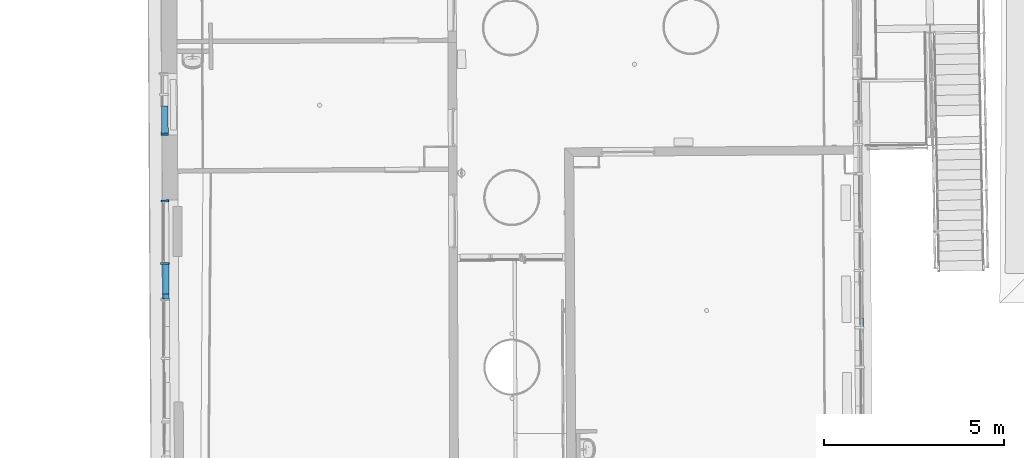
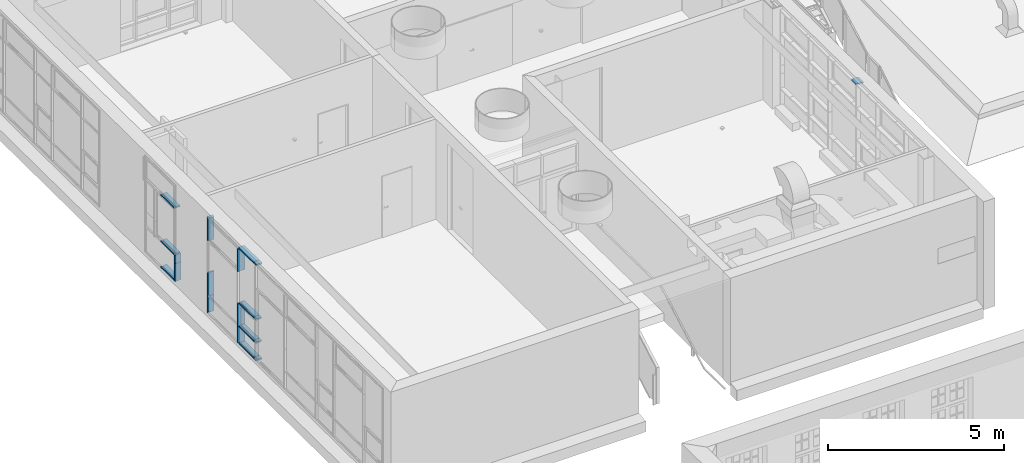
# One storey, part 121 of 158: 20 building element parts, 3 elements without a shape of their own.
"""IFC2X3 building model written with IfcOpenShell, lengths in metres."""

from ifc_helpers import new_model, entity, si_unit, converted_unit, derived_unit, money_unit, direction, frame, origin_with_axes, place, context, subcontext, project, spatial, faceted_brep, material, type_object, element, aggregate, save


model = new_model("IFC2X3")

# Units and contexts
model_context = context("Model", 3, precision=1e-05, world=origin_with_axes(), true_north=direction((0.0, 1.0)))
body_context = subcontext(model_context, "Body", "Model", "MODEL_VIEW")
ifc_project = project(units=[si_unit("LENGTHUNIT", "METRE"), si_unit("AREAUNIT", "SQUARE_METRE"), si_unit("VOLUMEUNIT", "CUBIC_METRE"), converted_unit("PLANEANGLEUNIT", "DEGREE", entity("IfcPlaneAngleMeasure", 0.0174532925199), si_unit("PLANEANGLEUNIT", "RADIAN"), dimensions=[0, 0, 0, 0, 0, 0, 0]), money_unit("EUR"), converted_unit("TIMEUNIT", "Year", entity("IfcTimeMeasure", 31556926.0), si_unit("TIMEUNIT", "SECOND"), dimensions=[0, 0, 1, 0, 0, 0, 0]), si_unit("MASSUNIT", "GRAM", prefix="KILO"), si_unit("THERMODYNAMICTEMPERATUREUNIT", "DEGREE_CELSIUS"), si_unit("LUMINOUSINTENSITYUNIT", "LUMEN"), si_unit("ENERGYUNIT", "JOULE", prefix="MEGA"), derived_unit("THERMALCONDUCTANCEUNIT", [(si_unit("POWERUNIT", "WATT"), 1), (si_unit("LENGTHUNIT", "METRE"), -1), (si_unit("THERMODYNAMICTEMPERATUREUNIT", "KELVIN"), -1)]), derived_unit("SPECIFICHEATCAPACITYUNIT", [(si_unit("ENERGYUNIT", "JOULE"), 1), (si_unit("MASSUNIT", "GRAM", prefix="KILO"), -1), (si_unit("THERMODYNAMICTEMPERATUREUNIT", "KELVIN"), -1)]), derived_unit("MASSDENSITYUNIT", [(si_unit("MASSUNIT", "GRAM", prefix="KILO"), 1), (si_unit("VOLUMEUNIT", "CUBIC_METRE"), -1)])], contexts=[model_context])

# Site, building, storey
site_placement = place(None, origin_with_axes())
site = spatial("IfcSite", under=ifc_project, at=site_placement, Name="Gelände", CompositionType="ELEMENT")
building_placement = place(site_placement, origin_with_axes())
building = spatial("IfcBuilding", under=site, at=building_placement, Name="Gebäude", CompositionType="ELEMENT")
storey_placement = place(building_placement, origin_with_axes())
storey = spatial("IfcBuildingStorey", under=building, at=storey_placement, Name="ERDGESCHOSS", CompositionType="ELEMENT", Elevation=0.0)

# Proxy, building element parts
building_element_proxy_type = type_object("IfcBuildingElementProxyType", Name="Fassadentyp", PredefinedType="NOTDEFINED")
proxy_1_placement = place(storey_placement, frame((-34.8671799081, 43.8049527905, 1.34043902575), z_axis=(0.0, 0.0, 1.0), x_axis=(1.0, 0.0, 0.0)))
proxy_1 = element("IfcBuildingElementProxy", 1, at=proxy_1_placement, inside=storey, type_object=building_element_proxy_type, Name="Fassade-002")
ifc_material = material(Name="53_Metall, Aluminium")
building_element_part_1_placement = place(proxy_1_placement, origin_with_axes())
building_element_part_1 = element("IfcBuildingElementPart", 2, at=building_element_part_1_placement, material=ifc_material, Name="53_Metall, Aluminium", context=body_context, shape_type="Brep", body=[
    faceted_brep([(0.0149540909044, -0.844683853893, 0.620000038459), (-0.00504556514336, -0.844801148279, 0.620000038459), (-0.00513353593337, -0.829801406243, 0.620000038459), (-0.0451328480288, -0.830035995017, 0.620000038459), (-0.0448396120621, -0.880035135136, 0.620000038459), (0.155156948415, -0.878862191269, 0.620000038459), (0.154863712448, -0.82886305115, 0.620000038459), (0.0148661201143, -0.829684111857, 0.620000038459), (0.0149540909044, -0.844683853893, 0.035), (-0.00504556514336, -0.844801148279, 0.035), (-0.00513353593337, -0.829801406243, 0.05), (-0.0451328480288, -0.830035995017, 0.05), (-0.0448396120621, -0.880035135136, 0.0), (0.155156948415, -0.878862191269, 0.0), (0.154863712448, -0.82886305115, 0.05), (0.0148661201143, -0.829684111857, 0.05)], [[[0, 1, 2, 3, 4, 5, 6, 7]], [[1, 0, 8, 9]], [[10, 2, 1, 9]], [[2, 10, 11, 3]], [[4, 3, 11, 12]], [[5, 4, 12, 13]], [[6, 5, 13, 14]], [[15, 7, 6, 14]], [[0, 7, 15, 8]], [[8, 15, 14, 13, 12, 11, 10, 9]]]),
])
building_element_part_2_placement = place(proxy_1_placement, origin_with_axes())
building_element_part_2 = element("IfcBuildingElementPart", 3, at=building_element_part_2_placement, material=ifc_material, Name="53_Metall, Aluminium", context=body_context, shape_type="Brep", body=[
    faceted_brep([(0.0149540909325, -0.844683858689, 0.915545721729), (-0.00504556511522, -0.844801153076, 0.915545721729), (-0.00513353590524, -0.82980141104, 0.915545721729), (-0.0451328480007, -0.830035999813, 0.915545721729), (-0.0448396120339, -0.880035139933, 0.915545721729), (0.155156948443, -0.878862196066, 0.915545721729), (0.154863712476, -0.828863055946, 0.915545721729), (0.0148661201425, -0.829684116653, 0.915545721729), (0.0149540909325, -0.844683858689, 0.620000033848), (-0.00504556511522, -0.844801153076, 0.620000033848), (-0.00513353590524, -0.82980141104, 0.620000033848), (-0.0451328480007, -0.830035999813, 0.620000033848), (-0.0448396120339, -0.880035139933, 0.620000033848), (0.155156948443, -0.878862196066, 0.620000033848), (0.154863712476, -0.828863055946, 0.620000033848), (0.0148661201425, -0.829684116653, 0.620000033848)], [[[0, 1, 2, 3, 4, 5, 6, 7]], [[1, 0, 8, 9]], [[10, 2, 1, 9]], [[2, 10, 11, 3]], [[12, 4, 3, 11]], [[13, 5, 4, 12]], [[14, 6, 5, 13]], [[15, 7, 6, 14]], [[0, 7, 15, 8]], [[8, 15, 14, 13, 12, 11, 10, 9]]]),
])
building_element_part_3_placement = place(proxy_1_placement, origin_with_axes())
building_element_part_3 = element("IfcBuildingElementPart", 4, at=building_element_part_3_placement, material=ifc_material, Name="53_Metall, Aluminium", context=body_context, shape_type="Brep", body=[
    faceted_brep([(0.0148661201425, -0.829684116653, 2.51000003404), (0.0148661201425, -0.829684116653, 2.49500003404), (0.154863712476, -0.828863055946, 2.49500003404), (0.154863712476, -0.828863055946, 2.54500003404), (0.0148661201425, -0.829684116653, 2.54500003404), (0.0148661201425, -0.829684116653, 2.53000003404), (-0.00513353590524, -0.82980141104, 2.53000003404), (-0.00513353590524, -0.82980141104, 2.54500003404), (-0.0451328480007, -0.830035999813, 2.54500003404), (-0.0451328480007, -0.830035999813, 2.49500003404), (-0.00513353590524, -0.82980141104, 2.49500003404), (-0.00513353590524, -0.82980141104, 2.51000003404), (0.0104198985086, -0.0715668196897, 2.51000003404), (0.0104198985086, -0.0715668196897, 2.49500003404), (0.150417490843, -0.0707457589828, 2.49500003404), (0.150417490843, -0.0707457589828, 2.54500003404), (0.0104198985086, -0.0715668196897, 2.54500003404), (0.0104198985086, -0.0715668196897, 2.53000003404), (-0.00957975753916, -0.0716841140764, 2.53000003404), (-0.00957975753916, -0.0716841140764, 2.54500003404), (-0.0495790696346, -0.0719187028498, 2.54500003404), (-0.0495790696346, -0.0719187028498, 2.49500003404), (-0.00957975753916, -0.0716841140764, 2.49500003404), (-0.00957975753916, -0.0716841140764, 2.51000003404)], [[[0, 1, 2, 3, 4, 5, 6, 7, 8, 9, 10, 11]], [[1, 0, 12, 13]], [[1, 13, 14, 2]], [[3, 2, 14, 15]], [[4, 3, 15, 16]], [[4, 16, 17, 5]], [[5, 17, 18, 6]], [[7, 6, 18, 19]], [[19, 20, 8, 7]], [[9, 8, 20, 21]], [[22, 10, 9, 21]], [[11, 10, 22, 23]], [[0, 11, 23, 12]], [[23, 22, 21, 20, 19, 18, 17, 16, 15, 14, 13, 12]]]),
])
building_element_part_4_placement = place(proxy_1_placement, origin_with_axes())
building_element_part_4 = element("IfcBuildingElementPart", 5, at=building_element_part_4_placement, material=ifc_material, Name="53_Metall, Aluminium", context=body_context, shape_type="Brep", body=[
    faceted_brep([(0.014954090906, -0.844683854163, 0.035), (-0.00504556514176, -0.84480114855, 0.035), (-0.0051335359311, -0.82980140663, 0.05), (-0.0451328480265, -0.830035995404, 0.05), (-0.0448396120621, -0.880035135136, 0.0), (0.155156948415, -0.878862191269, 0.0), (0.154863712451, -0.828863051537, 0.05), (0.0148661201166, -0.829684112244, 0.05), (0.0104198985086, -0.0715668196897, 0.035), (-0.00957975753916, -0.0716841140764, 0.035), (-0.00957975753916, -0.0716841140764, 0.05), (-0.0495790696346, -0.0719187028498, 0.05), (-0.0495790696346, -0.0719187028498, 0.0), (0.150417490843, -0.0707457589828, 0.0), (0.150417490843, -0.0707457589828, 0.05), (0.0104198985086, -0.0715668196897, 0.05)], [[[0, 1, 2, 3, 4, 5, 6, 7]], [[1, 0, 8, 9]], [[10, 2, 1, 9]], [[2, 10, 11, 3]], [[12, 4, 3, 11]], [[13, 5, 4, 12]], [[14, 6, 5, 13]], [[15, 7, 6, 14]], [[0, 7, 15, 8]], [[8, 15, 14, 13, 12, 11, 10, 9]]]),
])
building_element_part_5_placement = place(proxy_1_placement, origin_with_axes())
building_element_part_5 = element("IfcBuildingElementPart", 6, at=building_element_part_5_placement, material=ifc_material, Name="53_Metall, Aluminium", context=body_context, shape_type="Brep", body=[
    faceted_brep([(0.0148661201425, -0.829684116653, 0.905545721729), (0.0148661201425, -0.829684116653, 0.890545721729), (0.154863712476, -0.828863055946, 0.890545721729), (0.154863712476, -0.828863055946, 0.940545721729), (0.0148661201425, -0.829684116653, 0.940545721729), (0.0148661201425, -0.829684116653, 0.925545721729), (-0.00513353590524, -0.82980141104, 0.925545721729), (-0.00513353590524, -0.82980141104, 0.940545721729), (-0.0451328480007, -0.830035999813, 0.940545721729), (-0.0451328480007, -0.830035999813, 0.890545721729), (-0.00513353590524, -0.82980141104, 0.890545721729), (-0.00513353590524, -0.82980141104, 0.905545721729), (0.0104198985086, -0.0715668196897, 0.905545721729), (0.0104198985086, -0.0715668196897, 0.890545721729), (0.150417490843, -0.0707457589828, 0.890545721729), (0.150417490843, -0.0707457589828, 0.940545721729), (0.0104198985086, -0.0715668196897, 0.940545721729), (0.0104198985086, -0.0715668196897, 0.925545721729), (-0.00957975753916, -0.0716841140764, 0.925545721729), (-0.00957975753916, -0.0716841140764, 0.940545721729), (-0.0495790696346, -0.0719187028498, 0.940545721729), (-0.0495790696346, -0.0719187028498, 0.890545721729), (-0.00957975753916, -0.0716841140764, 0.890545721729), (-0.00957975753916, -0.0716841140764, 0.905545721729)], [[[0, 1, 2, 3, 4, 5, 6, 7, 8, 9, 10, 11]], [[1, 0, 12, 13]], [[1, 13, 14, 2]], [[3, 2, 14, 15]], [[4, 3, 15, 16]], [[4, 16, 17, 5]], [[5, 17, 18, 6]], [[7, 6, 18, 19]], [[19, 20, 8, 7]], [[9, 8, 20, 21]], [[22, 10, 9, 21]], [[11, 10, 22, 23]], [[0, 11, 23, 12]], [[23, 22, 21, 20, 19, 18, 17, 16, 15, 14, 13, 12]]]),
])
aggregate(proxy_1, [building_element_part_1, building_element_part_2, building_element_part_3, building_element_part_4, building_element_part_5])

# Proxy, building element part
proxy_2_placement = place(storey_placement, frame((-15.5457352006, 40.9565245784, 1.34043905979), z_axis=(0.0, 0.0, 1.0), x_axis=(1.0, 0.0, 0.0)))
proxy_2 = element("IfcBuildingElementProxy", 7, at=proxy_2_placement, inside=storey, type_object=building_element_proxy_type, Name="Fassade-002")
building_element_part_6_placement = place(proxy_2_placement, origin_with_axes())
building_element_part_6 = element("IfcBuildingElementPart", 8, at=building_element_part_6_placement, material=ifc_material, Name="53_Metall, Aluminium", context=body_context, shape_type="Brep", body=[
    faceted_brep([(0.0162378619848, -3.37205335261, 3.31499987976), (0.0362372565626, -3.37189773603, 3.31499987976), (0.0362372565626, -3.37189773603, 3.29999987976), (0.116234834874, -3.37127526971, 3.29999987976), (0.116234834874, -3.37127526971, 3.34999987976), (-0.12375790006, -3.37314266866, 3.34999987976), (-0.12375790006, -3.37314266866, 3.29999987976), (0.0162378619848, -3.37205335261, 3.29999987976), (0.0141207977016, -3.09997434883, 3.31499987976), (0.0341201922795, -3.09981873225, 3.31499987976), (0.0341201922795, -3.09981873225, 3.29999987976), (0.114117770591, -3.09919626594, 3.29999987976), (0.114117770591, -3.09919626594, 3.34999987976), (-0.125874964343, -3.10106366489, 3.34999987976), (-0.125874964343, -3.10106366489, 3.29999987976), (0.0141207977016, -3.09997434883, 3.29999987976)], [[[0, 1, 2, 3, 4, 5, 6, 7]], [[1, 0, 8, 9]], [[10, 2, 1, 9]], [[2, 10, 11, 3]], [[12, 4, 3, 11]], [[13, 5, 4, 12]], [[14, 6, 5, 13]], [[15, 7, 6, 14]], [[0, 7, 15, 8]], [[8, 15, 14, 13, 12, 11, 10, 9]]]),
])
aggregate(proxy_2, [building_element_part_6])

# Proxy, building element parts
proxy_3_placement = place(storey_placement, frame((-34.8120286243, 34.4012060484, 1.3404389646), z_axis=(0.0, 0.0, 1.0), x_axis=(1.0, 0.0, 0.0)))
proxy_3 = element("IfcBuildingElementProxy", 9, at=proxy_3_placement, inside=storey, type_object=building_element_proxy_type, Name="Fassade-002")
building_element_part_7_placement = place(proxy_3_placement, origin_with_axes())
building_element_part_7 = element("IfcBuildingElementPart", 10, at=building_element_part_7_placement, material=ifc_material, Name="53_Metall, Aluminium", context=body_context, shape_type="Brep", body=[
    faceted_brep([(-0.0132443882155, 3.96338837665, 0.0350000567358), (-0.0332440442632, 3.96327108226, 0.0350000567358), (-0.0332440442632, 3.96327108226, 0.0500000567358), (-0.0732433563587, 3.96303649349, 0.0500000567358), (-0.0732433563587, 3.96303649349, 5.6735754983e-08), (0.126753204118, 3.96420943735, 5.6735754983e-08), (0.126753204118, 3.96420943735, 0.0500000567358), (-0.0132443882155, 3.96338837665, 0.0500000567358), (-0.0141129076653, 4.11147807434, 0.0350000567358), (-0.034112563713, 4.11136077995, 0.0350000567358), (-0.034112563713, 4.11136077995, 0.0500000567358), (-0.0741118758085, 4.11112619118, 0.0500000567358), (-0.0741118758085, 4.11112619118, 5.6735754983e-08), (0.125884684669, 4.11229913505, 5.6735754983e-08), (0.125884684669, 4.11229913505, 0.0500000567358), (-0.0141129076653, 4.11147807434, 0.0500000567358)], [[[0, 1, 2, 3, 4, 5, 6, 7]], [[1, 0, 8, 9]], [[10, 2, 1, 9]], [[2, 10, 11, 3]], [[12, 4, 3, 11]], [[13, 5, 4, 12]], [[14, 6, 5, 13]], [[15, 7, 6, 14]], [[0, 7, 15, 8]], [[8, 15, 14, 13, 12, 11, 10, 9]]]),
])
building_element_part_8_placement = place(proxy_3_placement, origin_with_axes())
building_element_part_8 = element("IfcBuildingElementPart", 11, at=building_element_part_8_placement, material=ifc_material, Name="53_Metall, Aluminium", context=body_context, shape_type="Brep", body=[
    faceted_brep([(-0.0133910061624, 3.98838794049, 1.4100000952), (-0.0133910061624, 3.98838794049, 1.3950000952), (0.126606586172, 3.9892090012, 1.3950000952), (0.126606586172, 3.9892090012, 1.4450000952), (-0.0133910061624, 3.98838794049, 1.4450000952), (-0.0133910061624, 3.98838794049, 1.4300000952), (-0.0333906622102, 3.98827064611, 1.4300000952), (-0.0333906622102, 3.98827064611, 1.4450000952), (-0.0733899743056, 3.98803605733, 1.4450000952), (-0.0733899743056, 3.98803605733, 1.3950000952), (-0.0333906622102, 3.98827064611, 1.3950000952), (-0.0333906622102, 3.98827064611, 1.4100000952), (-0.0141129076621, 4.1114780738, 1.4100000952), (-0.0141129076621, 4.1114780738, 1.3950000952), (0.125884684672, 4.1122991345, 1.3950000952), (0.125884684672, 4.1122991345, 1.4450000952), (-0.0141129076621, 4.1114780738, 1.4450000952), (-0.0141129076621, 4.1114780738, 1.4300000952), (-0.0341125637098, 4.11136077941, 1.4300000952), (-0.0341125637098, 4.11136077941, 1.4450000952), (-0.0741118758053, 4.11112619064, 1.4450000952), (-0.0741118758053, 4.11112619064, 1.3950000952), (-0.0341125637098, 4.11136077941, 1.3950000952), (-0.0341125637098, 4.11136077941, 1.4100000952)], [[[0, 1, 2, 3, 4, 5, 6, 7, 8, 9, 10, 11]], [[1, 0, 12, 13]], [[1, 13, 14, 2]], [[3, 2, 14, 15]], [[4, 3, 15, 16]], [[4, 16, 17, 5]], [[5, 17, 18, 6]], [[7, 6, 18, 19]], [[19, 20, 8, 7]], [[9, 8, 20, 21]], [[22, 10, 9, 21]], [[11, 10, 22, 23]], [[0, 11, 23, 12]], [[23, 22, 21, 20, 19, 18, 17, 16, 15, 14, 13, 12]]]),
])
building_element_part_9_placement = place(proxy_3_placement, origin_with_axes())
building_element_part_9 = element("IfcBuildingElementPart", 12, at=building_element_part_9_placement, material=ifc_material, Name="53_Metall, Aluminium", context=body_context, shape_type="Brep", body=[
    faceted_brep([(-0.0133910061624, 3.98838794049, 0.610000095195), (-0.0133910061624, 3.98838794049, 0.595000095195), (0.126606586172, 3.9892090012, 0.595000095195), (0.126606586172, 3.9892090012, 0.645000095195), (-0.0133910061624, 3.98838794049, 0.645000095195), (-0.0133910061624, 3.98838794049, 0.630000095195), (-0.0333906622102, 3.98827064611, 0.630000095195), (-0.0333906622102, 3.98827064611, 0.645000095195), (-0.0733899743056, 3.98803605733, 0.645000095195), (-0.0733899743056, 3.98803605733, 0.595000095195), (-0.0333906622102, 3.98827064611, 0.595000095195), (-0.0333906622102, 3.98827064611, 0.610000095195), (-0.0141129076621, 4.1114780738, 0.610000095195), (-0.0141129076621, 4.1114780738, 0.595000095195), (0.125884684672, 4.1122991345, 0.595000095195), (0.125884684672, 4.1122991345, 0.645000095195), (-0.0141129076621, 4.1114780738, 0.645000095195), (-0.0141129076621, 4.1114780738, 0.630000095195), (-0.0341125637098, 4.11136077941, 0.630000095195), (-0.0341125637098, 4.11136077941, 0.645000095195), (-0.0741118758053, 4.11112619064, 0.645000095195), (-0.0741118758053, 4.11112619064, 0.595000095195), (-0.0341125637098, 4.11136077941, 0.595000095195), (-0.0341125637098, 4.11136077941, 0.610000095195)], [[[0, 1, 2, 3, 4, 5, 6, 7, 8, 9, 10, 11]], [[1, 0, 12, 13]], [[1, 13, 14, 2]], [[3, 2, 14, 15]], [[4, 3, 15, 16]], [[4, 16, 17, 5]], [[5, 17, 18, 6]], [[7, 6, 18, 19]], [[19, 20, 8, 7]], [[9, 8, 20, 21]], [[22, 10, 9, 21]], [[11, 10, 22, 23]], [[0, 11, 23, 12]], [[23, 22, 21, 20, 19, 18, 17, 16, 15, 14, 13, 12]]]),
])
building_element_part_10_placement = place(proxy_3_placement, origin_with_axes())
building_element_part_10 = element("IfcBuildingElementPart", 13, at=building_element_part_10_placement, material=ifc_material, Name="53_Metall, Aluminium", context=body_context, shape_type="Brep", body=[
    faceted_brep([(-0.0190470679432, 4.95279291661, 0.620000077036), (-0.0189590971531, 4.93779317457, 0.620000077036), (0.121038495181, 4.93861423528, 0.620000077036), (0.120745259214, 4.9886133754, 0.620000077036), (-0.0192523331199, 4.98779231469, 0.620000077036), (-0.0191643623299, 4.97279257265, 0.620000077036), (-0.0391640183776, 4.97267527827, 0.620000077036), (-0.0392519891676, 4.9876750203, 0.620000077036), (-0.114250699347, 4.98723516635, 0.620000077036), (-0.11395746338, 4.93723602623, 0.620000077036), (-0.0389587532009, 4.93767588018, 0.620000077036), (-0.0390467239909, 4.95267562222, 0.620000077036), (-0.0190470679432, 4.95279291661, 0.0500000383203), (-0.0189590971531, 4.93779317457, 0.0500000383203), (0.121038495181, 4.93861423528, 0.0500000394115), (0.120745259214, 4.9886133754, 0.0500000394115), (-0.0192523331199, 4.98779231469, 0.0500000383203), (-0.0191643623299, 4.97279257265, 0.0500000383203), (-0.0391640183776, 4.97267527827, 0.0500000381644), (-0.0392519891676, 4.9876750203, 0.0500000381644), (-0.114250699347, 4.98723516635, 0.0500000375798), (-0.11395746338, 4.93723602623, 0.0500000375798), (-0.0389587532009, 4.93767588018, 0.0500000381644), (-0.0390467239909, 4.95267562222, 0.0500000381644)], [[[0, 1, 2, 3, 4, 5, 6, 7, 8, 9, 10, 11]], [[1, 0, 12, 13]], [[1, 13, 14, 2]], [[2, 14, 15, 3]], [[4, 3, 15, 16]], [[4, 16, 17, 5]], [[5, 17, 18, 6]], [[7, 6, 18, 19]], [[19, 20, 8, 7]], [[8, 20, 21, 9]], [[22, 10, 9, 21]], [[11, 10, 22, 23]], [[0, 11, 23, 12]], [[23, 22, 21, 20, 19, 18, 17, 16, 15, 14, 13, 12]]]),
])
building_element_part_11_placement = place(proxy_3_placement, origin_with_axes())
building_element_part_11 = element("IfcBuildingElementPart", 14, at=building_element_part_11_placement, material=ifc_material, Name="53_Metall, Aluminium", context=body_context, shape_type="Brep", body=[
    faceted_brep([(-0.0141129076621, 4.1114780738, 1.4100000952), (-0.0141129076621, 4.1114780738, 1.3950000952), (0.125884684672, 4.1122991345, 1.3950000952), (0.125884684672, 4.1122991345, 1.4450000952), (-0.0141129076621, 4.1114780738, 1.4450000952), (-0.0141129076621, 4.1114780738, 1.4300000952), (-0.0341125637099, 4.11136077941, 1.4300000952), (-0.0341125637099, 4.11136077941, 1.4450000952), (-0.0741118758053, 4.11112619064, 1.4450000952), (-0.0741118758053, 4.11112619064, 1.3950000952), (-0.0341125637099, 4.11136077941, 1.3950000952), (-0.0341125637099, 4.11136077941, 1.4100000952), (-0.0189875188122, 4.94263930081, 1.4100000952), (-0.0189875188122, 4.94263930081, 1.3950000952), (0.121010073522, 4.94346036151, 1.3950000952), (0.121010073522, 4.94346036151, 1.4450000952), (-0.0189875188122, 4.94263930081, 1.4450000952), (-0.0189875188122, 4.94263930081, 1.4300000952), (-0.0389871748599, 4.94252200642, 1.4300000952), (-0.0389871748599, 4.94252200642, 1.4450000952), (-0.0789864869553, 4.94228741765, 1.4450000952), (-0.0789864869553, 4.94228741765, 1.3950000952), (-0.0389871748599, 4.94252200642, 1.3950000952), (-0.0389871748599, 4.94252200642, 1.4100000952)], [[[0, 1, 2, 3, 4, 5, 6, 7, 8, 9, 10, 11]], [[1, 0, 12, 13]], [[1, 13, 14, 2]], [[3, 2, 14, 15]], [[4, 3, 15, 16]], [[4, 16, 17, 5]], [[5, 17, 18, 6]], [[7, 6, 18, 19]], [[19, 20, 8, 7]], [[9, 8, 20, 21]], [[22, 10, 9, 21]], [[11, 10, 22, 23]], [[0, 11, 23, 12]], [[23, 22, 21, 20, 19, 18, 17, 16, 15, 14, 13, 12]]]),
])
building_element_part_12_placement = place(proxy_3_placement, origin_with_axes())
building_element_part_12 = element("IfcBuildingElementPart", 15, at=building_element_part_12_placement, material=ifc_material, Name="53_Metall, Aluminium", context=body_context, shape_type="Brep", body=[
    faceted_brep([(-0.0292250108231, 6.68821574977, 1.4200000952), (-0.0291370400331, 6.67321600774, 1.4200000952), (0.110860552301, 6.67403706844, 1.4200000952), (0.110567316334, 6.72403620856, 1.4200000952), (-0.089429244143, 6.7228632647, 1.4200000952), (-0.0891360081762, 6.67286412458, 1.4200000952), (-0.0491366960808, 6.67309871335, 1.4200000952), (-0.0492246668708, 6.68809845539, 1.4200000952), (-0.0292250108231, 6.68821574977, 0.620000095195), (-0.0291370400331, 6.67321600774, 0.620000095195), (0.110860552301, 6.67403706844, 0.620000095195), (0.110567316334, 6.72403620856, 0.620000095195), (-0.089429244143, 6.7228632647, 0.620000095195), (-0.0891360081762, 6.67286412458, 0.620000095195), (-0.0491366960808, 6.67309871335, 0.620000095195), (-0.0492246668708, 6.68809845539, 0.620000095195)], [[[0, 1, 2, 3, 4, 5, 6, 7]], [[0, 8, 9, 1]], [[9, 10, 2, 1]], [[10, 11, 3, 2]], [[11, 12, 4, 3]], [[12, 13, 5, 4]], [[6, 5, 13, 14]], [[14, 15, 7, 6]], [[7, 15, 8, 0]], [[8, 15, 14, 13, 12, 11, 10, 9]]]),
])
building_element_part_13_placement = place(proxy_3_placement, origin_with_axes())
building_element_part_13 = element("IfcBuildingElementPart", 16, at=building_element_part_13_placement, material=ifc_material, Name="53_Metall, Aluminium", context=body_context, shape_type="Brep", body=[
    faceted_brep([(-0.0292250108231, 6.68821574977, 3.31500000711), (-0.0291370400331, 6.67321600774, 3.30000000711), (0.110860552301, 6.67403706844, 3.30000000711), (0.110567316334, 6.72403620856, 3.35000000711), (-0.089429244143, 6.7228632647, 3.35000000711), (-0.0891360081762, 6.67286412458, 3.30000000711), (-0.0491366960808, 6.67309871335, 3.30000000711), (-0.0492246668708, 6.68809845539, 3.31500000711), (-0.0292250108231, 6.68821574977, 2.5200000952), (-0.0291370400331, 6.67321600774, 2.5200000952), (0.110860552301, 6.67403706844, 2.5200000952), (0.110567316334, 6.72403620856, 2.5200000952), (-0.089429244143, 6.7228632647, 2.5200000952), (-0.0891360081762, 6.67286412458, 2.5200000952), (-0.0491366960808, 6.67309871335, 2.5200000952), (-0.0492246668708, 6.68809845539, 2.5200000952)], [[[0, 1, 2, 3, 4, 5, 6, 7]], [[0, 8, 9, 1]], [[9, 10, 2, 1]], [[10, 11, 3, 2]], [[11, 12, 4, 3]], [[12, 13, 5, 4]], [[6, 5, 13, 14]], [[14, 15, 7, 6]], [[7, 15, 8, 0]], [[8, 15, 14, 13, 12, 11, 10, 9]]]),
])
building_element_part_14_placement = place(proxy_3_placement, origin_with_axes())
building_element_part_14 = element("IfcBuildingElementPart", 17, at=building_element_part_14_placement, material=ifc_material, Name="53_Metall, Aluminium", context=body_context, shape_type="Brep", body=[
    faceted_brep([(-0.0190470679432, 4.95279291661, 1.42000009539), (-0.0189590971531, 4.93779317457, 1.42000009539), (0.121038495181, 4.93861423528, 1.42000009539), (0.120745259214, 4.9886133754, 1.42000009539), (-0.0192523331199, 4.98779231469, 1.42000009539), (-0.0191643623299, 4.97279257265, 1.42000009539), (-0.0391640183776, 4.97267527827, 1.42000009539), (-0.0392519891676, 4.9876750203, 1.42000009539), (-0.114250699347, 4.98723516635, 1.42000009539), (-0.11395746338, 4.93723602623, 1.42000009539), (-0.0389587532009, 4.93767588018, 1.42000009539), (-0.0390467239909, 4.95267562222, 1.42000009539), (-0.0190470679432, 4.95279291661, 0.620000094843), (-0.0189590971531, 4.93779317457, 0.620000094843), (0.121038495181, 4.93861423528, 0.620000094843), (0.120745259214, 4.9886133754, 0.620000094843), (-0.0192523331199, 4.98779231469, 0.620000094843), (-0.0191643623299, 4.97279257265, 0.620000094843), (-0.0391640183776, 4.97267527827, 0.620000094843), (-0.0392519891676, 4.9876750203, 0.620000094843), (-0.114250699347, 4.98723516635, 0.620000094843), (-0.11395746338, 4.93723602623, 0.620000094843), (-0.0389587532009, 4.93767588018, 0.620000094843), (-0.0390467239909, 4.95267562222, 0.620000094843)], [[[0, 1, 2, 3, 4, 5, 6, 7, 8, 9, 10, 11]], [[1, 0, 12, 13]], [[1, 13, 14, 2]], [[3, 2, 14, 15]], [[4, 3, 15, 16]], [[4, 16, 17, 5]], [[5, 17, 18, 6]], [[7, 6, 18, 19]], [[19, 20, 8, 7]], [[9, 8, 20, 21]], [[22, 10, 9, 21]], [[11, 10, 22, 23]], [[0, 11, 23, 12]], [[23, 22, 21, 20, 19, 18, 17, 16, 15, 14, 13, 12]]]),
])
building_element_part_15_placement = place(proxy_3_placement, origin_with_axes())
building_element_part_15 = element("IfcBuildingElementPart", 18, at=building_element_part_15_placement, material=ifc_material, Name="53_Metall, Aluminium", context=body_context, shape_type="Brep", body=[
    faceted_brep([(-0.0132443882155, 3.96338837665, 3.31499999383), (-0.0132443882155, 3.96338837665, 3.29999999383), (0.126753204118, 3.96420943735, 3.29999999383), (0.126753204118, 3.96420943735, 3.34999999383), (-0.0732433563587, 3.96303649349, 3.34999999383), (-0.0732433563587, 3.96303649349, 3.29999999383), (-0.0332440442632, 3.96327108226, 3.29999999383), (-0.0332440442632, 3.96327108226, 3.31499999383), (-0.0141129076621, 4.1114780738, 3.31499999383), (-0.0141129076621, 4.1114780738, 3.29999999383), (0.125884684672, 4.1122991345, 3.29999999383), (0.125884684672, 4.1122991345, 3.34999999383), (-0.0741118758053, 4.11112619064, 3.34999999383), (-0.0741118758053, 4.11112619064, 3.29999999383), (-0.0341125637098, 4.11136077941, 3.29999999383), (-0.0341125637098, 4.11136077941, 3.31499999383)], [[[0, 1, 2, 3, 4, 5, 6, 7]], [[0, 8, 9, 1]], [[9, 10, 2, 1]], [[10, 11, 3, 2]], [[11, 12, 4, 3]], [[12, 13, 5, 4]], [[6, 5, 13, 14]], [[14, 15, 7, 6]], [[7, 15, 8, 0]], [[8, 15, 14, 13, 12, 11, 10, 9]]]),
])
building_element_part_16_placement = place(proxy_3_placement, origin_with_axes())
building_element_part_16 = element("IfcBuildingElementPart", 19, at=building_element_part_16_placement, material=ifc_material, Name="53_Metall, Aluminium", context=body_context, shape_type="Brep", body=[
    faceted_brep([(-0.0292250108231, 6.68821574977, 0.620000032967), (-0.0291370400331, 6.67321600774, 0.620000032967), (0.110860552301, 6.67403706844, 0.620000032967), (0.110567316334, 6.72403620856, 0.620000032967), (-0.089429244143, 6.7228632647, 0.620000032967), (-0.0891360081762, 6.67286412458, 0.620000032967), (-0.0491366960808, 6.67309871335, 0.620000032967), (-0.0492246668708, 6.68809845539, 0.620000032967), (-0.0292250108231, 6.68821574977, 0.0349999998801), (-0.0291370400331, 6.67321600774, 0.0499999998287), (0.110860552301, 6.67403706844, 0.0499999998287), (0.110567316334, 6.72403620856, 0.0), (-0.089429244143, 6.7228632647, 0.0), (-0.0891360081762, 6.67286412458, 0.0499999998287), (-0.0491366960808, 6.67309871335, 0.0499999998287), (-0.0492246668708, 6.68809845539, 0.0349999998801)], [[[0, 1, 2, 3, 4, 5, 6, 7]], [[0, 8, 9, 1]], [[9, 10, 2, 1]], [[2, 10, 11, 3]], [[3, 11, 12, 4]], [[4, 12, 13, 5]], [[6, 5, 13, 14]], [[14, 15, 7, 6]], [[7, 15, 8, 0]], [[8, 15, 14, 13, 12, 11, 10, 9]]]),
])
building_element_part_17_placement = place(proxy_3_placement, origin_with_axes())
building_element_part_17 = element("IfcBuildingElementPart", 20, at=building_element_part_17_placement, material=ifc_material, Name="53_Metall, Aluminium", context=body_context, shape_type="Brep", body=[
    faceted_brep([(-0.0190470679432, 4.95279291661, 3.29999996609), (-0.0189590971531, 4.93779317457, 3.29999996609), (0.121038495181, 4.93861423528, 3.29999996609), (0.120745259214, 4.9886133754, 3.29999996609), (-0.0192523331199, 4.98779231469, 3.29999996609), (-0.0191643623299, 4.97279257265, 3.29999996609), (-0.0391640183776, 4.97267527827, 3.29999996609), (-0.0392519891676, 4.9876750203, 3.29999996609), (-0.114250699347, 4.98723516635, 3.29999996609), (-0.11395746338, 4.93723602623, 3.29999996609), (-0.0389587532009, 4.93767588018, 3.29999996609), (-0.0390467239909, 4.95267562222, 3.29999996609), (-0.0190470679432, 4.95279291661, 2.52000009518), (-0.0189590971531, 4.93779317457, 2.52000009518), (0.121038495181, 4.93861423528, 2.52000009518), (0.120745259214, 4.9886133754, 2.52000009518), (-0.0192523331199, 4.98779231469, 2.52000009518), (-0.0191643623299, 4.97279257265, 2.52000009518), (-0.0391640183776, 4.97267527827, 2.52000009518), (-0.0392519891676, 4.9876750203, 2.52000009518), (-0.114250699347, 4.98723516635, 2.52000009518), (-0.11395746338, 4.93723602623, 2.52000009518), (-0.0389587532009, 4.93767588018, 2.52000009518), (-0.0390467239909, 4.95267562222, 2.52000009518)], [[[0, 1, 2, 3, 4, 5, 6, 7, 8, 9, 10, 11]], [[1, 0, 12, 13]], [[1, 13, 14, 2]], [[3, 2, 14, 15]], [[4, 3, 15, 16]], [[4, 16, 17, 5]], [[5, 17, 18, 6]], [[7, 6, 18, 19]], [[19, 20, 8, 7]], [[9, 8, 20, 21]], [[22, 10, 9, 21]], [[11, 10, 22, 23]], [[0, 11, 23, 12]], [[23, 22, 21, 20, 19, 18, 17, 16, 15, 14, 13, 12]]]),
])
building_element_part_18_placement = place(proxy_3_placement, origin_with_axes())
building_element_part_18 = element("IfcBuildingElementPart", 21, at=building_element_part_18_placement, material=ifc_material, Name="53_Metall, Aluminium", context=body_context, shape_type="Brep", body=[
    faceted_brep([(-0.014112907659, 4.11147807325, 0.0350000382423), (-0.0341125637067, 4.11136077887, 0.0350000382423), (-0.0341125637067, 4.11136077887, 0.0500000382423), (-0.0741118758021, 4.11112619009, 0.0500000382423), (-0.0741118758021, 4.11112619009, 3.82423235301e-08), (0.125884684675, 4.11229913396, 3.82423235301e-08), (0.125884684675, 4.11229913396, 0.0500000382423), (-0.014112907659, 4.11147807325, 0.0500000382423), (-0.0191057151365, 4.96279274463, 0.0350000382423), (-0.0391053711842, 4.96267545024, 0.0350000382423), (-0.0391053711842, 4.96267545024, 0.0500000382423), (-0.0791046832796, 4.96244086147, 0.0500000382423), (-0.0791046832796, 4.96244086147, 3.82423235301e-08), (0.120891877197, 4.96361380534, 3.82423235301e-08), (0.120891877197, 4.96361380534, 0.0500000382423), (-0.0191057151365, 4.96279274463, 0.0500000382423)], [[[0, 1, 2, 3, 4, 5, 6, 7]], [[1, 0, 8, 9]], [[10, 2, 1, 9]], [[2, 10, 11, 3]], [[12, 4, 3, 11]], [[13, 5, 4, 12]], [[14, 6, 5, 13]], [[15, 7, 6, 14]], [[0, 7, 15, 8]], [[8, 15, 14, 13, 12, 11, 10, 9]]]),
])
building_element_part_19_placement = place(proxy_3_placement, origin_with_axes())
building_element_part_19 = element("IfcBuildingElementPart", 22, at=building_element_part_19_placement, material=ifc_material, Name="53_Metall, Aluminium", context=body_context, shape_type="Brep", body=[
    faceted_brep([(-0.0141129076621, 4.1114780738, 0.610000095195), (-0.0141129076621, 4.1114780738, 0.595000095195), (0.125884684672, 4.1122991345, 0.595000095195), (0.125884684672, 4.1122991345, 0.645000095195), (-0.0141129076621, 4.1114780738, 0.645000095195), (-0.0141129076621, 4.1114780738, 0.630000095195), (-0.0341125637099, 4.11136077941, 0.630000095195), (-0.0341125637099, 4.11136077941, 0.645000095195), (-0.0741118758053, 4.11112619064, 0.645000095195), (-0.0741118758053, 4.11112619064, 0.595000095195), (-0.0341125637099, 4.11136077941, 0.595000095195), (-0.0341125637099, 4.11136077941, 0.610000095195), (-0.0189590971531, 4.93779317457, 0.610000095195), (-0.0189590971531, 4.93779317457, 0.595000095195), (0.121038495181, 4.93861423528, 0.595000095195), (0.121038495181, 4.93861423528, 0.645000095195), (-0.0189590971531, 4.93779317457, 0.645000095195), (-0.0189590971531, 4.93779317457, 0.630000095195), (-0.0389587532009, 4.93767588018, 0.630000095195), (-0.0389587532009, 4.93767588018, 0.645000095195), (-0.0789580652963, 4.93744129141, 0.645000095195), (-0.0789580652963, 4.93744129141, 0.595000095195), (-0.0389587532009, 4.93767588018, 0.595000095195), (-0.0389587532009, 4.93767588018, 0.610000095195)], [[[0, 1, 2, 3, 4, 5, 6, 7, 8, 9, 10, 11]], [[1, 0, 12, 13]], [[1, 13, 14, 2]], [[2, 14, 15, 3]], [[4, 3, 15, 16]], [[4, 16, 17, 5]], [[5, 17, 18, 6]], [[7, 6, 18, 19]], [[19, 20, 8, 7]], [[8, 20, 21, 9]], [[22, 10, 9, 21]], [[11, 10, 22, 23]], [[0, 11, 23, 12]], [[23, 22, 21, 20, 19, 18, 17, 16, 15, 14, 13, 12]]]),
])
building_element_part_20_placement = place(proxy_3_placement, origin_with_axes())
building_element_part_20 = element("IfcBuildingElementPart", 23, at=building_element_part_20_placement, material=ifc_material, Name="53_Metall, Aluminium", context=body_context, shape_type="Brep", body=[
    faceted_brep([(-0.0141129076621, 4.1114780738, 3.31499999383), (-0.0141129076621, 4.1114780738, 3.29999999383), (0.125884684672, 4.1122991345, 3.29999999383), (0.125884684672, 4.1122991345, 3.34999999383), (-0.0741118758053, 4.11112619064, 3.34999999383), (-0.0741118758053, 4.11112619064, 3.29999999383), (-0.0341125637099, 4.11136077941, 3.29999999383), (-0.0341125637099, 4.11136077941, 3.31499999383), (-0.0191057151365, 4.96279274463, 3.31499999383), (-0.0191057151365, 4.96279274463, 3.29999999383), (0.120891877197, 4.96361380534, 3.29999999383), (0.120891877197, 4.96361380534, 3.34999999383), (-0.0791046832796, 4.96244086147, 3.34999999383), (-0.0791046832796, 4.96244086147, 3.29999999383), (-0.0391053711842, 4.96267545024, 3.29999999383), (-0.0391053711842, 4.96267545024, 3.31499999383)], [[[0, 1, 2, 3, 4, 5, 6, 7]], [[0, 8, 9, 1]], [[9, 10, 2, 1]], [[10, 11, 3, 2]], [[11, 12, 4, 3]], [[12, 13, 5, 4]], [[6, 5, 13, 14]], [[14, 15, 7, 6]], [[7, 15, 8, 0]], [[8, 15, 14, 13, 12, 11, 10, 9]]]),
])
aggregate(proxy_3, [building_element_part_7, building_element_part_8, building_element_part_9, building_element_part_10, building_element_part_11, building_element_part_12, building_element_part_13, building_element_part_14, building_element_part_15, building_element_part_16, building_element_part_17, building_element_part_18, building_element_part_19, building_element_part_20])

save(model, "model.ifc")
